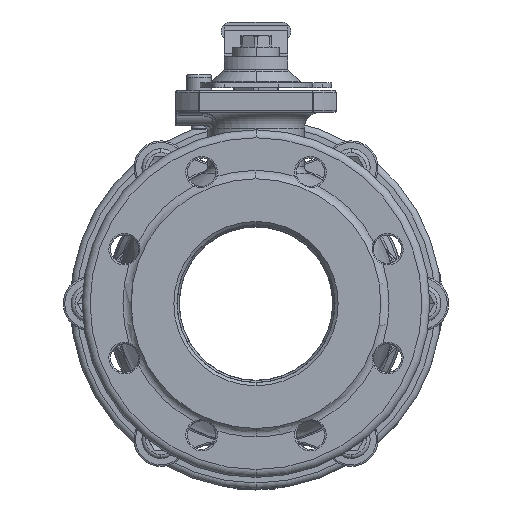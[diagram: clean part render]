
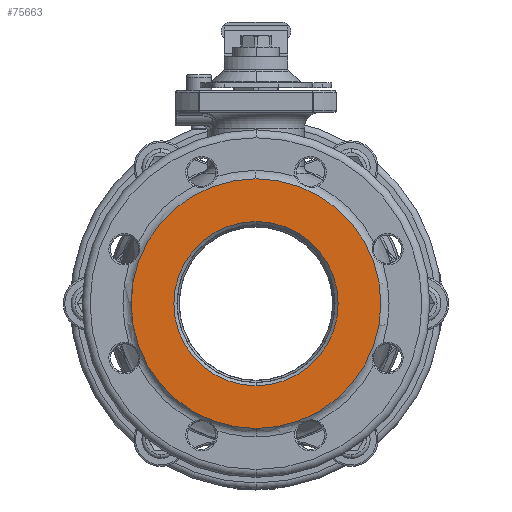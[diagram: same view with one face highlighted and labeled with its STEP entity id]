
A CAD part, left-side view. The second image highlights one B-rep face of the part: STEP entity #75663.
In plain terms, the highlighted planar face has unit normal (-1, 0, 0).
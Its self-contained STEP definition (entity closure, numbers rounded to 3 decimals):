
#14417=CARTESIAN_POINT('',(-75.,0.,0.));
#14418=DIRECTION('',(-1.,0.,0.));
#14419=DIRECTION('',(0.,0.,-1.));
#14420=AXIS2_PLACEMENT_3D('',#14417,#14418,#14419);
#14422=CARTESIAN_POINT('',(-75.,0.,0.));
#14423=DIRECTION('',(-1.,0.,0.));
#14424=DIRECTION('',(0.,0.,1.));
#14425=AXIS2_PLACEMENT_3D('',#14422,#14423,#14424);
#14427=CARTESIAN_POINT('',(-75.,0.,0.));
#14428=DIRECTION('',(-1.,0.,0.));
#14429=DIRECTION('',(0.,0.,1.));
#14430=AXIS2_PLACEMENT_3D('',#14427,#14428,#14429);
#14432=CARTESIAN_POINT('',(-75.,0.,0.));
#14433=DIRECTION('',(1.,0.,0.));
#14434=DIRECTION('',(0.,0.,1.));
#14435=AXIS2_PLACEMENT_3D('',#14432,#14433,#14434);
#43932=CARTESIAN_POINT('',(-75.,0.,52.));
#43933=CARTESIAN_POINT('',(-75.,0.,-52.));
#43934=VERTEX_POINT('',#43932);
#43935=VERTEX_POINT('',#43933);
#45974=CARTESIAN_POINT('',(-75.,0.,-79.));
#45975=CARTESIAN_POINT('',(-75.,0.,79.));
#45976=VERTEX_POINT('',#45974);
#45977=VERTEX_POINT('',#45975);
#75647=CARTESIAN_POINT('',(-75.,0.,0.));
#75648=DIRECTION('',(-1.,0.,0.));
#75649=DIRECTION('',(0.,0.,1.));
#75650=AXIS2_PLACEMENT_3D('',#75647,#75648,#75649);
#75651=PLANE('',#75650);
#75653=ORIENTED_EDGE('',*,*,#75652,.F.);
#75654=ORIENTED_EDGE('',*,*,#75622,.F.);
#75655=EDGE_LOOP('',(#75653,#75654));
#75656=FACE_OUTER_BOUND('',#75655,.F.);
#75658=ORIENTED_EDGE('',*,*,#75657,.T.);
#75660=ORIENTED_EDGE('',*,*,#75659,.F.);
#75661=EDGE_LOOP('',(#75658,#75660));
#75662=FACE_BOUND('',#75661,.F.);
#75663=ADVANCED_FACE('',(#75656,#75662),#75651,.T.);
#14421=CIRCLE('',#14420,79.);
#14426=CIRCLE('',#14425,79.);
#14431=CIRCLE('',#14430,52.);
#14436=CIRCLE('',#14435,52.);
#75622=EDGE_CURVE('',#45977,#45976,#14426,.T.);
#75652=EDGE_CURVE('',#45976,#45977,#14421,.T.);
#75657=EDGE_CURVE('',#43934,#43935,#14431,.T.);
#75659=EDGE_CURVE('',#43934,#43935,#14436,.T.);
